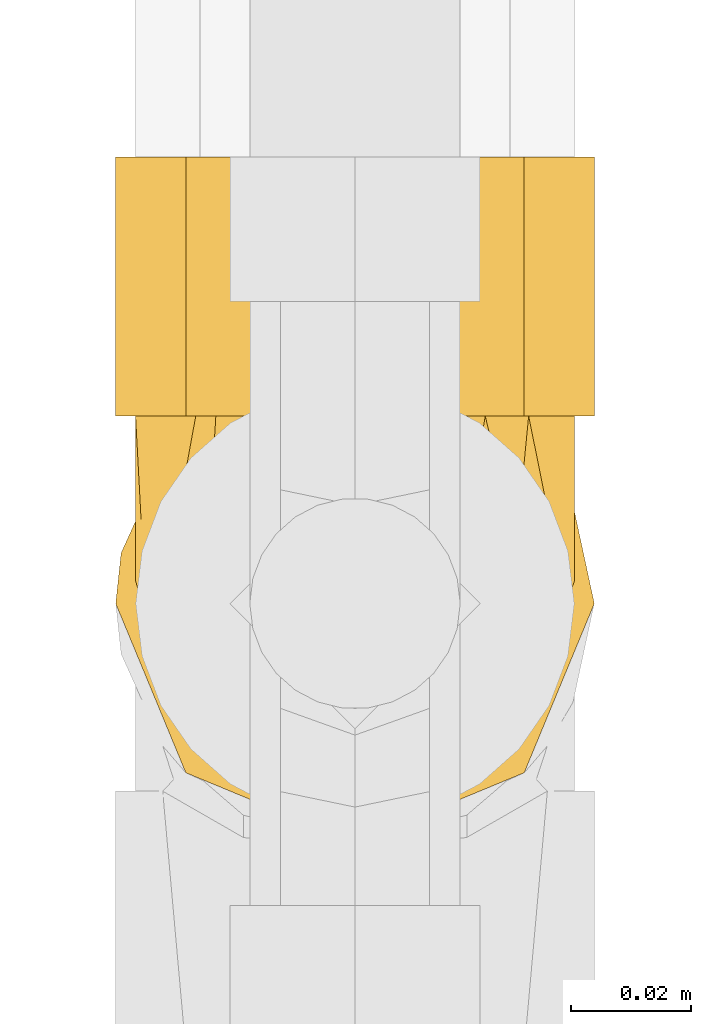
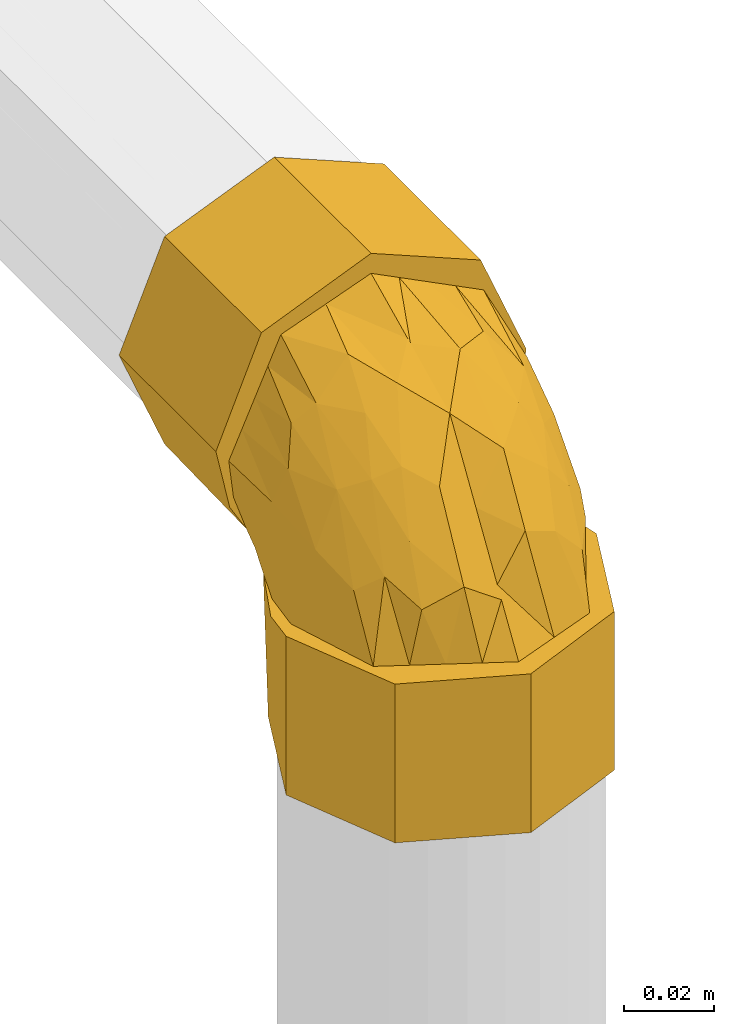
# One storey, part 246 of 652: 1 covering.
"""IFC2X3 building model written with IfcOpenShell, lengths in millimetres."""

from ifc_helpers import new_model, entity, si_unit, converted_unit, direction, frame, origin, place, context, subcontext, project, spatial, faceted_brep, material, type_object, element, save


model = new_model("IFC2X3")

# Units and contexts
model_context = context("Model", 3, precision=0.01, world=frame((0.0, 0.0, 308426.39999999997)), true_north=direction((6.123233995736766e-17, 1.0)))
plan_context = context("Plan", 3, precision=0.01, world=frame((0.0, 0.0, 308426.39999999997)), true_north=direction((6.123233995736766e-17, 1.0)))
body_context = subcontext(model_context, "Body", "Model", "MODEL_VIEW")
ifc_project = project(units=[si_unit("LENGTHUNIT", "METRE", prefix="MILLI"), si_unit("AREAUNIT", "SQUARE_METRE"), si_unit("VOLUMEUNIT", "CUBIC_METRE"), converted_unit("PLANEANGLEUNIT", "DEGREE", entity("IfcPlaneAngleMeasure", 0.017453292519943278), si_unit("PLANEANGLEUNIT", "RADIAN"), dimensions=[0, 0, 0, 0, 0, 0, 0])], contexts=[model_context, plan_context])

# Site, building, storey
site_placement = place(None, origin())
site = spatial("IfcSite", under=ifc_project, at=site_placement, Name="Default", CompositionType="ELEMENT")
building_placement = place(site_placement, origin())
building = spatial("IfcBuilding", under=site, at=building_placement, CompositionType="ELEMENT")
storey_placement = place(building_placement, frame((0.0, 0.0, 1730.6999999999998)))
storey = spatial("IfcBuildingStorey", under=building, at=storey_placement, Name="EG_Produktion_FFB", CompositionType="ELEMENT", Elevation=1730.6999999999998)

# Covering
ifc_material = material(Name="Dämmung - Armaflex-Schlauch")
covering_type = type_object("IfcCoveringType", Name="Rohrdämmung außen:Armaflex-Schlauch", PredefinedType="INSULATION")
covering_placement = place(storey_placement, frame((78488.60472776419, 51596.63308173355, 3525.7500000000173)))
element("IfcCovering", 1, at=covering_placement, inside=storey, type_object=covering_type, material=ifc_material, Name="Rohrdämmung außen:Armaflex-Schlauch", ObjectType="Rohrdämmung außen:Armaflex-Schlauch", PredefinedType="INSULATION", context=body_context, shape_type="Brep", body=[
    faceted_brep([(76.69198954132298, 55.37038782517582, 43.05000000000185), (77.16404151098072, 51.35297020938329, 43.04999999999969), (77.89527223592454, 45.12980118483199, 43.05000000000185), (74.4532351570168, 37.49419488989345, 43.04999999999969), (71.01119807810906, 29.85858859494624, 43.04999999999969), (67.77734838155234, 22.684812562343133, 43.05000000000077), (64.5434986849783, 15.511036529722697, 43.05000000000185), (52.969385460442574, 11.256907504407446, 43.05000000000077), (41.395272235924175, 7.002778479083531, 43.05000000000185), (34.17467666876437, 10.654927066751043, 43.05000000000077), (26.954081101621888, 14.307075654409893, 43.05000000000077), (19.73348553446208, 17.959224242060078, 43.04999999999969), (12.512889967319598, 21.611372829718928, 43.05000000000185), (10.128351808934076, 28.97333188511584, 43.05000000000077), (7.511812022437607, 37.05156653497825, 43.05000000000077), (4.895272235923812, 45.12980118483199, 43.05000000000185), (5.6265029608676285, 51.35297020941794, 43.04999999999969), (6.09855493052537, 55.37038782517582, 43.05000000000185), (7.751839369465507, 60.2220699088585, 43.04999999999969), (9.405123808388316, 65.07375199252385, 43.05000000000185), (5.948218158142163, 57.433378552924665, 43.05000000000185), (2.4913125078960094, 49.79300511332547, 43.05000000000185), (1.5952722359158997, 41.39527223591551, 43.05000000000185), (4.909068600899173, 33.39506010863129, 43.05000000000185), (7.4238472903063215, 27.323847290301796, 43.05000000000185), (10.338134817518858, 20.28813481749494, 43.05000000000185), (13.252422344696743, 13.25242234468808, 43.05000000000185), (20.288134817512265, 10.33813481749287, 43.05000000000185), (27.32384729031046, 7.4238472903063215, 43.05000000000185), (34.359559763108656, 4.509559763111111, 43.05000000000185), (41.395272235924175, 1.5952722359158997, 43.05000000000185), (49.39548442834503, 4.909068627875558, 43.05000000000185), (55.466697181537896, 7.4238472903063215, 43.05000000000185), (62.502409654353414, 10.33813481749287, 43.05000000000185), (69.53812212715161, 13.25242234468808, 43.05000000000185), (72.45240965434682, 20.28813481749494, 43.05000000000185), (75.36669718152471, 27.323847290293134, 43.05000000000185), (77.88147639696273, 33.395061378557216, 43.05000000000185), (81.19527223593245, 41.39527223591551, 43.05000000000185), (79.425746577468, 49.598680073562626, 43.05000000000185), (77.65622091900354, 57.802087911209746, 43.05000000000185), (73.38542066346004, 65.07375199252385, 43.05000000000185), (75.03870510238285, 60.2220699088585, 43.04999999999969), (4.509559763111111, 48.43098470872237, 0.0), (7.4238472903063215, 55.466697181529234, 0.0), (10.338134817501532, 62.50240965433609, 0.0), (13.252422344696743, 69.53812212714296, 0.0), (20.28813481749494, 72.45240965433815, 0.0), (27.32384729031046, 75.36669718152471, 0.0), (33.39505987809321, 77.88147577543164, 0.0), (41.395272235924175, 81.19527223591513, 0.0), (49.39548296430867, 77.88147645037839, 0.0), (55.466697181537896, 75.36669718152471, 0.0), (62.502409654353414, 72.45240965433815, 0.0), (69.53812212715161, 69.53812212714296, 0.0), (72.45240965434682, 62.50240965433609, 0.0), (75.36669718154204, 55.466697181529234, 0.0), (78.28098470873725, 48.43098470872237, 0.0), (81.19527223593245, 41.39527223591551, 0.0), (78.28098470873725, 34.359559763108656, 0.0), (75.36669718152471, 27.323847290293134, 0.0), (72.45240965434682, 20.28813481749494, 0.0), (69.53812212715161, 13.25242234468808, 0.0), (62.502409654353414, 10.33813481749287, 0.0), (55.466697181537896, 7.4238472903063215, 0.0), (48.43098470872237, 4.509559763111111, 0.0), (41.395272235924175, 1.5952722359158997, 0.0), (34.359559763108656, 4.509559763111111, 0.0), (27.32384729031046, 7.4238472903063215, 0.0), (20.28813481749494, 10.338134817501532, 0.0), (13.252422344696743, 13.25242234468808, 0.0), (8.222865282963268, 25.394847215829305, 0.0), (4.909068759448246, 33.39505972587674, 0.0), (1.5952722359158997, 41.39527223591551, 0.0), (16.10717069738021, 70.83137669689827, 39.20119599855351), (41.395272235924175, 81.19527223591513, 32.96795940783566), (32.10224491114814, 78.89213681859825, 34.16017570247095), (22.809217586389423, 76.58900140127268, 35.35239199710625), (27.45573124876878, 77.74056910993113, 34.756283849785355), (66.68337377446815, 70.83137669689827, 39.20119599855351), (50.688299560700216, 78.89213681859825, 34.16017570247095), (59.981326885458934, 76.58900140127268, 35.35239199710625), (45.709172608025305, 80.12613767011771, 33.52139610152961), (81.19527223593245, 72.59527223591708, 74.2500000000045), (77.88147589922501, 72.59527223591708, 82.25021205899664), (75.36669718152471, 72.59527223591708, 88.32142494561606), (72.45240965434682, 72.59527223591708, 95.35713741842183), (69.53812212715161, 72.59527223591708, 102.39284989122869), (62.50240965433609, 72.59527223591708, 105.30713741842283), (55.466697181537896, 72.59527223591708, 108.22142494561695), (49.39548303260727, 72.59527223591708, 110.7362041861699), (41.395272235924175, 72.59527223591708, 114.05000000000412), (33.39506041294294, 72.59527223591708, 110.73620376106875), (27.32384729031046, 72.59527223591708, 108.22142494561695), (20.288134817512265, 72.59527223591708, 105.30713741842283), (13.252422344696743, 72.59527223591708, 102.39284989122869), (10.338134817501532, 72.59527223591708, 95.35713741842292), (7.4238472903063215, 72.59527223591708, 88.32142494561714), (4.509559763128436, 72.59527223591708, 81.28571247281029), (1.5952722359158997, 72.59527223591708, 74.2500000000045), (3.3647978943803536, 72.59527223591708, 66.0465921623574), (5.1343235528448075, 72.59527223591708, 57.84318432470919), (9.405123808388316, 72.59527223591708, 50.5715202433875), (7.751839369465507, 72.59527223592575, 55.42320232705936), (6.09855493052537, 72.59527223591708, 60.27488441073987), (5.626503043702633, 72.59527223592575, 64.29230132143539), (5.260887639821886, 72.59527223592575, 67.40388618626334), (4.895272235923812, 72.59527223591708, 70.5154710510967), (8.233215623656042, 72.59527223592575, 77.92016221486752), (11.571159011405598, 72.59527223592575, 85.32485337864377), (14.90910239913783, 72.59527223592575, 92.72954454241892), (18.247045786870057, 72.59527223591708, 100.13423570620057), (24.034102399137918, 72.59527223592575, 102.26130021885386), (29.821159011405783, 72.59527223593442, 104.38836473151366), (41.395272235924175, 72.59527223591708, 108.64249375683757), (48.61586780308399, 72.59527223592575, 104.99034516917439), (55.83646337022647, 72.59527223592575, 101.3381965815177), (63.05705893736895, 72.59527223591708, 97.68604799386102), (70.27765450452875, 72.59527223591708, 94.03389940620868), (72.18205893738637, 72.59527223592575, 88.15429231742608), (74.08646337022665, 72.59527223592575, 82.27468522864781), (77.89527223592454, 72.59527223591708, 70.51547105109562), (77.5296568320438, 72.59527223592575, 67.40388618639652), (77.16404142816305, 72.59527223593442, 64.29230132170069), (76.69198954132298, 72.59527223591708, 60.27488441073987), (75.03870510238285, 72.59527223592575, 55.42320232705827), (73.38542066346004, 72.59527223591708, 50.5715202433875), (76.8423263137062, 72.59527223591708, 58.21189368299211), (80.29923196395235, 72.59527223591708, 65.85226712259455), (13.252422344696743, 115.64527223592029, 102.39284989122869), (25.394847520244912, 115.64527223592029, 107.42240707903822), (33.39505987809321, 115.64527223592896, 110.73620353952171), (41.395272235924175, 115.64527223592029, 114.05000000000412), (48.4309847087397, 115.64527223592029, 111.13571247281), (55.466697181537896, 115.64527223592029, 108.22142494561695), (62.502409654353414, 115.64527223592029, 105.30713741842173), (69.53812212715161, 115.64527223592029, 102.39284989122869), (72.45240965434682, 115.64527223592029, 95.35713741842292), (75.36669718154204, 115.64527223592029, 88.32142494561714), (78.28098470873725, 115.64527223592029, 81.28571247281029), (81.19527223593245, 115.64527223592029, 74.25000000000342), (78.28098470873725, 115.64527223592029, 67.21428752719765), (75.36669718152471, 115.64527223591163, 60.17857505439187), (72.45240965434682, 115.64527223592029, 53.142862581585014), (69.53812212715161, 115.64527223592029, 46.10715010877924), (62.50240965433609, 115.64527223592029, 43.19286258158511), (55.466697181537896, 115.64527223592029, 40.278575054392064), (49.395484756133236, 115.64527223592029, 37.76379652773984), (41.395272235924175, 115.64527223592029, 34.45000000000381), (33.395061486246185, 115.64527223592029, 37.76379579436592), (27.32384729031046, 115.64527223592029, 40.278575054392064), (20.28813481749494, 115.64527223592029, 43.19286258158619), (13.252422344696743, 115.64527223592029, 46.10715010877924), (10.338134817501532, 115.64527223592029, 53.142862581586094), (7.4238472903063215, 115.64527223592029, 60.17857505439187), (4.90906875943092, 115.64527223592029, 66.24978748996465), (1.5952722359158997, 115.64527223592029, 74.2500000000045), (4.509559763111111, 115.64527223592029, 81.28571247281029), (7.4238472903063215, 115.64527223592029, 88.32142494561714), (10.338134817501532, 115.64527223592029, 95.35713741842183), (41.395272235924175, 82.6773128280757, 34.45000000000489), (32.10224491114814, 81.4850965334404, 36.753135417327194), (22.809217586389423, 80.29288023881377, 39.0562708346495), (32.76747165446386, 81.57043946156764, 36.588269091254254), (16.10717069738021, 76.44407623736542, 44.8138955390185), (66.68337377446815, 76.44407623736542, 44.8138955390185), (50.688299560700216, 81.4850965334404, 36.753135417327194), (59.981326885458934, 80.29288023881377, 39.0562708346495), (50.02307281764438, 81.57043946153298, 36.588269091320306), (45.70917252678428, 82.12387614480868, 35.519134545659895), (12.134172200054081, 57.412793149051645, 87.4392185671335), (11.872305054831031, 29.2241120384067, 59.339809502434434), (8.381949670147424, 40.047716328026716, 64.89498398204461), (4.895272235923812, 51.72274358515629, 54.549532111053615), (5.713052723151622, 44.46846004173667, 57.65819391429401), (5.82258136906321, 55.20512724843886, 69.69449229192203), (14.291189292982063, 40.814670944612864, 78.76189809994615), (17.295947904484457, 24.894350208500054, 63.73330585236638), (41.395272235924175, 37.58562470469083, 91.87217906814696), (33.32279780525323, 46.90695483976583, 97.28886853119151), (32.96207522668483, 27.582841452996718, 81.05022587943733), (41.39527223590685, 14.648490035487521, 55.255544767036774), (31.958631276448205, 14.92246066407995, 61.79290999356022), (20.543012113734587, 36.28470016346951, 82.06651287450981), (4.895272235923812, 70.20187735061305, 68.68470117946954), (4.895272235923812, 67.80848246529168, 66.85393130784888), (4.895272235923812, 63.02169269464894, 63.19239156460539), (4.895272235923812, 62.15900791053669, 62.532501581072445), (4.895272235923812, 57.372218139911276, 58.870961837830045), (17.20428891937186, 55.053003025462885, 92.43052769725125), (23.523091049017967, 24.589934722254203, 71.36170051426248), (22.506400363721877, 17.346627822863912, 57.492018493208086), (24.542849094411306, 45.92465218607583, 92.84748127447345), (26.881676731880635, 34.00173463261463, 84.77119986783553), (41.395272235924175, 55.090448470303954, 100.25733641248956), (41.395272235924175, 56.27567245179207, 100.82508217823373), (41.395272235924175, 22.29420159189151, 67.46108953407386), (41.395272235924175, 26.010863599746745, 73.39433514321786), (41.395272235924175, 29.939913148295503, 79.66663430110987), (26.98314333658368, 57.88016952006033, 100.69661135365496), (8.925282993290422, 53.16765365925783, 78.77804864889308), (41.395272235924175, 16.50682103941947, 58.22216757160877), (4.895272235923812, 48.153778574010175, 48.32447730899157), (5.551365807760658, 55.97900107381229, 48.69317164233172), (6.7794642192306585, 61.264756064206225, 47.964423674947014), (41.395272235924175, 81.9079093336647, 33.7373629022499), (6.67492176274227, 64.05926779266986, 51.58600496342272), (11.256462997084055, 70.65705174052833, 44.988220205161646), (6.779464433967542, 67.68084924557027, 54.380515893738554), (5.565993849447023, 67.04460292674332, 59.638200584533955), (77.23917866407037, 55.97900107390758, 48.69317164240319), (77.89527223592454, 48.153778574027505, 48.32447730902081), (71.53408126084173, 70.65705209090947, 44.98822011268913), (76.11562236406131, 64.05926854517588, 51.58600421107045), (77.89527223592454, 57.37221813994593, 58.87096183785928), (76.0110802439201, 61.264756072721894, 47.964423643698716), (76.01108002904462, 67.68084927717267, 54.38051588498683), (77.22455062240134, 67.04460292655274, 59.638200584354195), (77.89527223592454, 67.80848246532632, 66.85393130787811), (77.89527223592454, 70.20187735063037, 68.68470117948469), (77.89527223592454, 63.02169269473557, 63.192391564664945), (77.89527223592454, 62.15900791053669, 62.532501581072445), (77.89527223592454, 51.72274358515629, 54.549532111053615), (74.8857190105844, 37.59649450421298, 59.714568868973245), (71.63741334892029, 29.779001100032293, 58.230498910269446), (75.88132954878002, 58.356734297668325, 76.57285852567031), (50.93896013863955, 30.250088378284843, 83.50662271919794), (66.01083955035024, 38.509823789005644, 80.03320078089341), (73.66837271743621, 47.23069909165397, 74.59033436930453), (68.18270760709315, 50.96010723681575, 87.07939433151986), (76.89386599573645, 50.77856611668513, 66.22403301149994), (76.90226649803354, 42.44960378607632, 56.06914431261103), (67.43892667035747, 29.826692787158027, 67.93837358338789), (60.25020692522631, 39.68498593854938, 86.81855141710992), (51.156391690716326, 49.8663505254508, 98.52707757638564), (60.07117178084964, 55.10540828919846, 96.99211743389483), (73.16342274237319, 58.247507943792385, 83.5101283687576), (58.19577940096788, 19.804135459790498, 64.9081272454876), (61.698892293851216, 29.150871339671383, 74.90326070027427), (66.04016185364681, 21.439025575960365, 56.08355083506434), (49.67803307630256, 18.424421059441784, 68.7569483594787)], [[[0, 1, 2, 3, 4, 5, 6, 7, 8, 9, 10, 11, 12, 13, 14, 15, 16, 17, 18, 19, 20, 21, 22, 23, 24, 25, 26, 27, 28, 29, 30, 31, 32, 33, 34, 35, 36, 37, 38, 39, 40, 41, 42]], [[43, 44, 45, 46, 47, 48, 49, 50, 51, 52, 53, 54, 55, 56, 57, 58, 59, 60, 61, 62, 63, 64, 65, 66, 67, 68, 69, 70, 71, 72, 73]], [[47, 46, 74]], [[75, 50, 49]], [[76, 75, 49]], [[48, 77, 78, 76]], [[47, 74, 77]], [[44, 20, 45]], [[43, 21, 44]], [[46, 19, 74]], [[77, 48, 47]], [[44, 21, 20]], [[43, 22, 21]], [[48, 76, 49]], [[43, 73, 22]], [[45, 20, 19]], [[19, 46, 45]], [[23, 22, 73, 72, 71, 70, 26, 25, 24]], [[26, 70, 69, 68, 67, 66, 30, 29, 28, 27]], [[38, 37, 36, 35, 34, 62, 61, 60, 59, 58]], [[30, 66, 65, 64, 63, 62, 34, 33, 32, 31]], [[56, 40, 39]], [[53, 79, 54]], [[39, 57, 56]], [[41, 55, 54]], [[40, 55, 41]], [[80, 52, 51]], [[52, 80, 81]], [[58, 57, 38]], [[51, 75, 82, 80]], [[38, 57, 39]], [[79, 53, 81]], [[55, 40, 56]], [[51, 50, 75]], [[53, 52, 81]], [[79, 41, 54]], [[83, 84, 85, 86, 87, 88, 89, 90, 91, 92, 93, 94, 95, 96, 97, 98, 99, 100, 101, 102, 103, 104, 105, 106, 107, 108, 109, 110, 111, 112, 113, 114, 115, 116, 117, 118, 119, 120, 121, 122, 123, 124, 125, 126, 127, 128]], [[129, 130, 131, 132, 133, 134, 135, 136, 137, 138, 139, 140, 141, 142, 143, 144, 145, 146, 147, 148, 149, 150, 151, 152, 153, 154, 155, 156, 157, 158, 159]], [[132, 131, 130, 129, 95, 94, 93, 92, 91]], [[95, 129, 159, 158, 157, 156, 99, 98, 97, 96]], [[156, 155, 154, 100]], [[101, 153, 102]], [[99, 156, 100]], [[101, 100, 154]], [[149, 148, 160]], [[102, 153, 152]], [[150, 161, 162]], [[161, 150, 149]], [[149, 160, 163, 161]], [[151, 164, 152]], [[164, 151, 162]], [[153, 101, 154]], [[151, 150, 162]], [[164, 102, 152]], [[145, 144, 165]], [[146, 166, 147]], [[166, 146, 167]], [[160, 148, 147]], [[145, 165, 167]], [[142, 127, 143]], [[141, 128, 142]], [[144, 126, 165]], [[167, 146, 145]], [[142, 128, 127]], [[141, 83, 128]], [[147, 166, 168, 169, 160]], [[141, 140, 83]], [[143, 127, 126]], [[126, 144, 143]], [[91, 90, 89, 88, 87, 136, 135, 134, 133, 132]], [[138, 137, 136, 87, 86, 85, 84, 83, 140, 139]], [[109, 170, 110]], [[13, 171, 172]], [[14, 13, 172]], [[173, 174, 175]], [[176, 171, 177]], [[15, 14, 174]], [[178, 179, 180]], [[9, 181, 182]], [[172, 175, 174]], [[13, 12, 171]], [[12, 11, 177]], [[176, 177, 183]], [[175, 107, 184, 185, 186, 187, 188, 173]], [[189, 170, 176]], [[176, 172, 171]], [[190, 191, 182]], [[11, 10, 191]], [[177, 11, 191]], [[170, 189, 110]], [[192, 183, 193]], [[179, 178, 194, 195]], [[182, 191, 10]], [[190, 182, 180]], [[177, 191, 190]], [[182, 10, 9]], [[182, 196, 180]], [[177, 190, 183]], [[177, 171, 12]], [[180, 196, 197, 198, 178]], [[113, 179, 195]], [[112, 111, 199, 113]], [[199, 111, 189]], [[195, 114, 113]], [[179, 192, 193]], [[200, 175, 172]], [[200, 108, 175]], [[172, 176, 200]], [[189, 111, 110]], [[200, 170, 109]], [[183, 189, 176]], [[108, 200, 109]], [[189, 192, 199]], [[108, 107, 175]], [[176, 170, 200]], [[193, 190, 180]], [[189, 183, 192]], [[190, 193, 183]], [[179, 193, 180]], [[181, 9, 8]], [[182, 181, 201, 196]], [[192, 179, 199]], [[179, 113, 199]], [[174, 173, 202, 15]], [[172, 174, 14]], [[173, 203, 202]], [[188, 204, 203]], [[17, 203, 18]], [[202, 17, 16, 15]], [[205, 76, 163]], [[74, 164, 162, 77]], [[163, 76, 78, 77, 162, 161]], [[206, 102, 207]], [[207, 164, 74]], [[106, 105, 104, 185, 184, 107]], [[206, 208, 102]], [[186, 185, 209, 188, 187]], [[205, 75, 76]], [[163, 160, 205]], [[206, 207, 19]], [[164, 207, 102]], [[19, 18, 204]], [[19, 207, 74]], [[202, 203, 17]], [[204, 206, 19]], [[203, 173, 188]], [[18, 203, 204]], [[102, 208, 103]], [[103, 209, 104]], [[208, 206, 188]], [[209, 103, 208]], [[209, 185, 104]], [[188, 209, 208]], [[204, 188, 206]], [[205, 160, 169]], [[210, 211, 0]], [[169, 168, 166, 167, 81, 80, 82]], [[41, 212, 213]], [[1, 0, 211, 2]], [[213, 214, 215]], [[205, 169, 82]], [[79, 165, 212]], [[126, 125, 216]], [[213, 212, 126]], [[205, 82, 75]], [[167, 165, 79, 81]], [[217, 124, 218]], [[210, 215, 214]], [[122, 121, 219, 218, 124, 123]], [[41, 79, 212]], [[212, 165, 126]], [[215, 41, 213]], [[125, 124, 217]], [[126, 216, 213]], [[125, 217, 216]], [[217, 218, 220, 221, 214]], [[215, 42, 41]], [[0, 42, 210]], [[211, 210, 222]], [[214, 213, 216]], [[210, 42, 215]], [[216, 217, 214]], [[210, 214, 222]], [[4, 223, 224]], [[121, 120, 225]], [[226, 178, 198, 197]], [[227, 228, 229]], [[230, 228, 223]], [[231, 222, 230]], [[224, 228, 232]], [[233, 234, 226]], [[3, 231, 223]], [[235, 234, 233]], [[236, 225, 120]], [[231, 2, 211, 222]], [[226, 237, 238]], [[4, 3, 223]], [[225, 221, 220, 218, 219, 121]], [[239, 224, 232]], [[6, 237, 7]], [[237, 6, 239]], [[240, 201, 7]], [[230, 225, 228]], [[226, 240, 237]], [[236, 228, 225]], [[229, 117, 235]], [[194, 234, 115]], [[226, 234, 178]], [[115, 114, 195, 194]], [[237, 239, 238]], [[240, 226, 197]], [[228, 224, 223]], [[224, 239, 5]], [[5, 239, 6]], [[5, 4, 224]], [[239, 232, 238]], [[7, 201, 181, 8]], [[7, 237, 240]], [[240, 197, 196, 201]], [[229, 118, 117]], [[194, 178, 234]], [[233, 238, 227]], [[235, 117, 116]], [[234, 235, 116]], [[229, 235, 233]], [[231, 3, 2]], [[230, 223, 231]], [[230, 222, 214, 221]], [[225, 230, 221]], [[119, 118, 236, 120]], [[236, 118, 229]], [[229, 228, 236]], [[234, 116, 115]], [[227, 238, 232]], [[226, 238, 233]], [[228, 227, 232]], [[233, 227, 229]]]),
])

save(model, "model.ifc")
